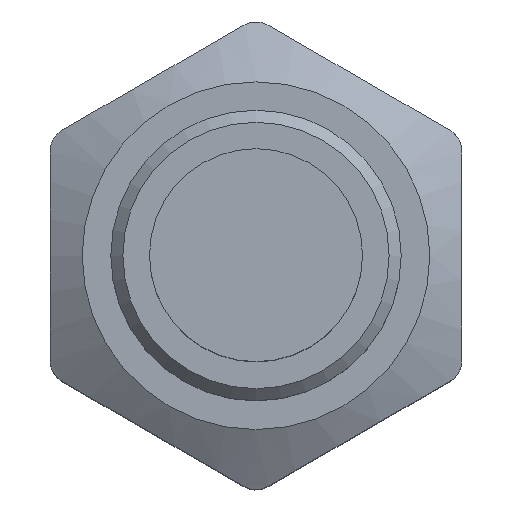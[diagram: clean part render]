
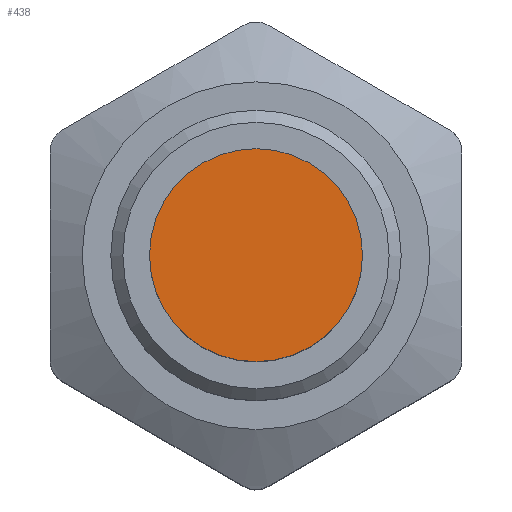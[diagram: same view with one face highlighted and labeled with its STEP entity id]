
A CAD part, top view. The second image highlights one B-rep face of the part: STEP entity #438.
In plain terms, the highlighted planar face has unit normal (0, 0, 1).
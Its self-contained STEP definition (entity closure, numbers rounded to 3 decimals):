
#108=PLANE('',#1518);
#237=CIRCLE('',#1516,4.4);
#438=ADVANCED_FACE('',(#543),#108,.T.);
#543=FACE_OUTER_BOUND('',#628,.T.);
#628=EDGE_LOOP('',(#780));
#780=ORIENTED_EDGE('',*,*,#1272,.T.);
#1120=VERTEX_POINT('',#2489);
#1272=EDGE_CURVE('',#1120,#1120,#237,.T.);
#1516=AXIS2_PLACEMENT_3D('',#2488,#1710,#1711);
#1518=AXIS2_PLACEMENT_3D('',#2491,#1714,#1715);
#1710=DIRECTION('',(0.,0.,1.));
#1711=DIRECTION('',(1.,0.,0.));
#1714=DIRECTION('',(0.,0.,1.));
#1715=DIRECTION('',(-1.,0.,0.));
#2488=CARTESIAN_POINT('',(-0.479,-1.687,74.24));
#2489=CARTESIAN_POINT('',(3.921,-1.687,74.24));
#2491=CARTESIAN_POINT('',(-0.479,-1.687,74.24));
